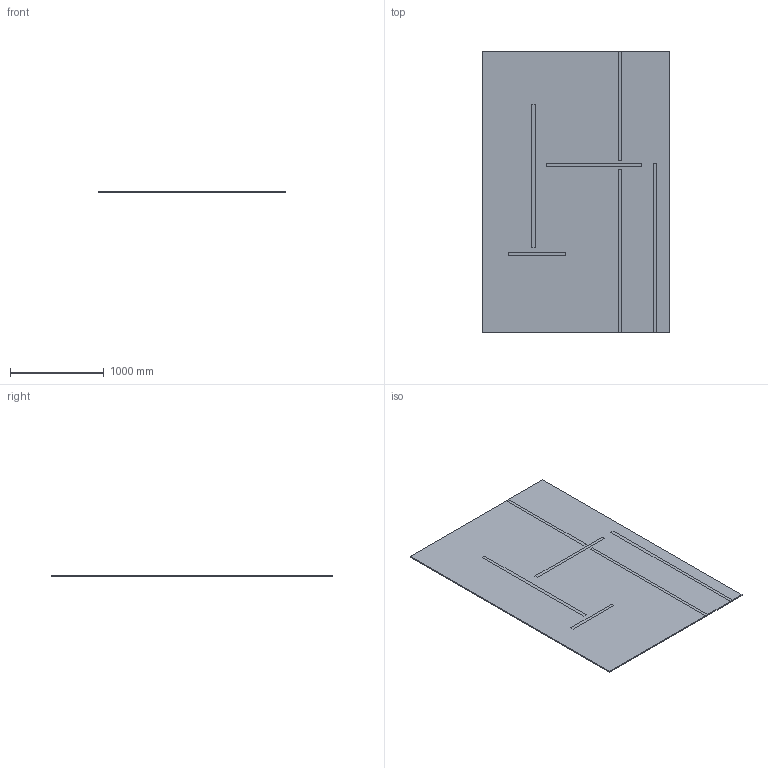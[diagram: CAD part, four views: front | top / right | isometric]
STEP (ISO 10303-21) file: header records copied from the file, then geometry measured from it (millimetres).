
FILE_DESCRIPTION(/* description */ (''),/* implementation_level */ '2;1');
FILE_NAME(/* name */ 'Monolith-Rug_200x300_3D_JS_20231010',/* time_stamp */ '2023-10-11T12:13:20+02:00',/* author */ (''),/* organization */ (''),/* preprocessor_version */ 'ST-DEVELOPER v16.5',/* originating_system */ 'Rhino 7.33',/* authorisation */ '');
FILE_SCHEMA (('CONFIG_CONTROL_DESIGN'));
Length unit declared in the file: millimetre
Products named in the file (1): Document
Bounding box: 2000 x 3000 x 12 mm (x, y, z)
Volume: 71999995.1 mm3; surface area: 12504956.9 mm2
Topology: 7 solids, 7 shells, 66 faces, 156 edges, 104 vertices
Faces by surface type: plane 66
Entity records: 1724 total; most frequent: CARTESIAN_POINT 484, ORIENTED_EDGE 312, EDGE_CURVE 156, B_SPLINE_CURVE_WITH_KNOTS 156, VERTEX_POINT 104, EDGE_LOOP 72, DIRECTION 70, AXIS2_PLACEMENT_3D 68
